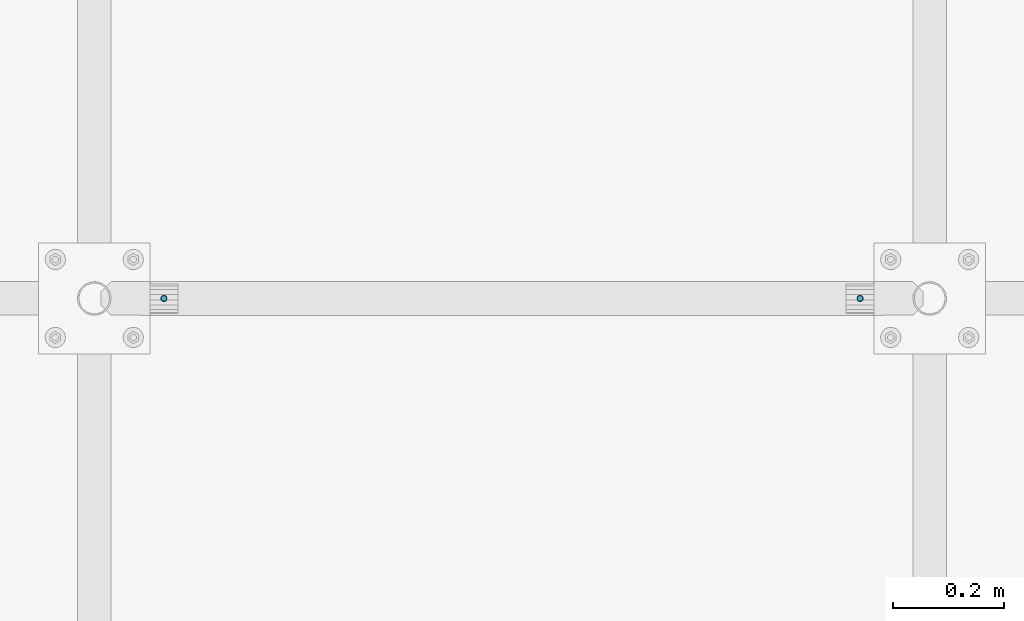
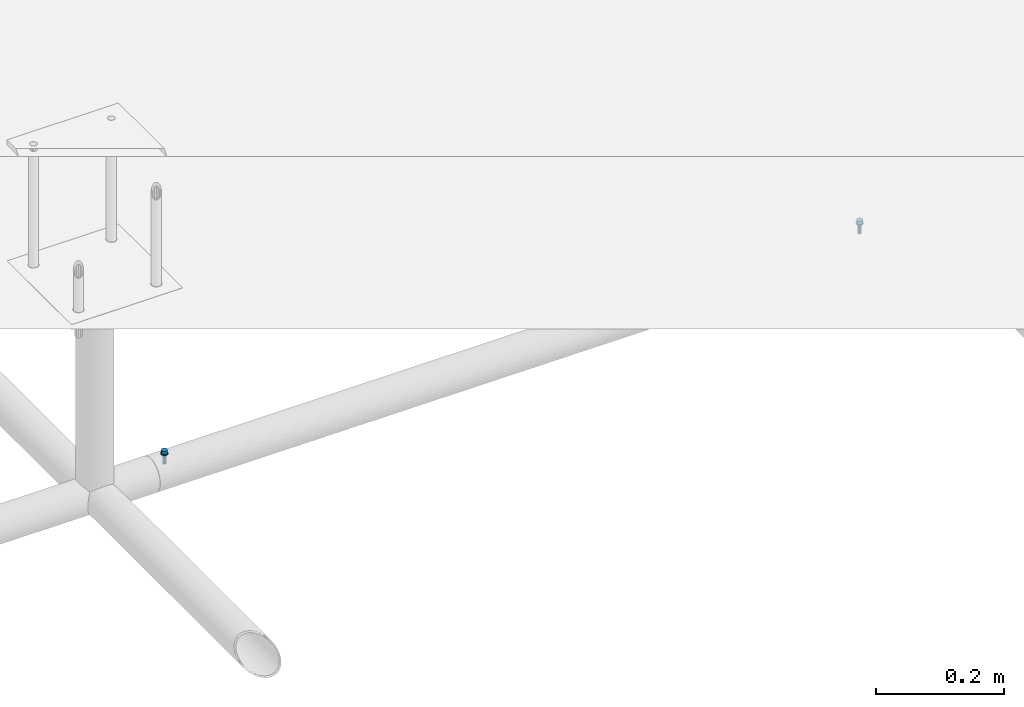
# One storey, part 11 of 30: 2 mechanical fasteners.
"""IFC2X3 building model written with IfcOpenShell, lengths in millimetres."""

from ifc_helpers import new_model, entity, si_unit, converted_unit, origin_with_axes, place, context, project, spatial, faceted_brep, element, save


model = new_model("IFC2X3")

# Units and contexts
model_context = context("Model", 3, precision=1e-09, world=origin_with_axes())
ifc_project = project(units=[si_unit("LENGTHUNIT", "METRE", prefix="MILLI"), si_unit("AREAUNIT", "SQUARE_METRE"), si_unit("VOLUMEUNIT", "CUBIC_METRE"), converted_unit("PLANEANGLEUNIT", "DEGREE", entity("IfcPlaneAngleMeasure", 0.01745329), si_unit("PLANEANGLEUNIT", "RADIAN"), dimensions=[0, 0, 0, 0, 0, 0, 0])], contexts=[model_context])

# Site, building, storey
site_placement = place(None, origin_with_axes())
site = spatial("IfcSite", under=ifc_project, at=site_placement, Name="M?nsinger Stra?e, 81477 M?nchen", CompositionType="ELEMENT")
building_placement = place(site_placement, origin_with_axes())
building = spatial("IfcBuilding", under=site, at=building_placement, Name="Struktur 1", CompositionType="ELEMENT")
storey_placement = place(building_placement, origin_with_axes())
storey = spatial("IfcBuildingStorey", under=building, at=storey_placement, Name="Default Storey", CompositionType="ELEMENT", Elevation=0.0)

# Mechanical fasteners
mechanical_fastener_1_placement = place(None, origin_with_axes())
element("IfcMechanicalFastener", 1, at=mechanical_fastener_1_placement, inside=storey, ObjectType="-", NominalDiameter=6.0, NominalLength=20.0, context=model_context, shape_type="Brep", body=[
    faceted_brep([(6025.315117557, 2991.2632594, 6141.75), (6025.315117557, 2991.2632594, 6140.15), (6025.430405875, 2990.092717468, 6140.15), (6025.430405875, 2990.092717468, 6141.75), (6025.771840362, 2988.967158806, 6140.15), (6025.771840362, 2988.967158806, 6141.75), (6026.326299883, 2987.929838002, 6140.15), (6026.326299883, 2987.929838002, 6141.75), (6027.07247687, 2987.020618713, 6140.15), (6027.07247687, 2987.020618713, 6141.75), (6027.981696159, 2986.274441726, 6140.15), (6027.981696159, 2986.274441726, 6141.75), (6029.019016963, 2985.719982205, 6140.15), (6029.019016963, 2985.719982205, 6141.75), (6030.144575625, 2985.378547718, 6140.15), (6030.144575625, 2985.378547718, 6141.75), (6031.315117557, 2985.2632594, 6140.15), (6031.315117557, 2985.2632594, 6141.75), (6032.485659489, 2985.378547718, 6140.15), (6032.485659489, 2985.378547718, 6141.75), (6033.611218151, 2985.719982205, 6140.15), (6033.611218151, 2985.719982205, 6141.75), (6034.648538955, 2986.274441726, 6140.15), (6034.648538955, 2986.274441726, 6141.75), (6035.557758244, 2987.020618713, 6140.15), (6035.557758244, 2987.020618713, 6141.75), (6036.303935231, 2987.929838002, 6140.15), (6036.303935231, 2987.929838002, 6141.75), (6036.858394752, 2988.967158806, 6140.15), (6036.858394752, 2988.967158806, 6141.75), (6037.199829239, 2990.092717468, 6140.15), (6037.199829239, 2990.092717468, 6141.75), (6037.315117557, 2991.2632594, 6140.15), (6037.315117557, 2991.2632594, 6141.75), (6037.199829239, 2992.433801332, 6140.15), (6037.199829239, 2992.433801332, 6141.75), (6036.858394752, 2993.559359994, 6140.15), (6036.858394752, 2993.559359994, 6141.75), (6036.303935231, 2994.596680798, 6140.15), (6036.303935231, 2994.596680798, 6141.75), (6035.557758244, 2995.505900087, 6140.15), (6035.557758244, 2995.505900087, 6141.75), (6034.648538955, 2996.252077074, 6140.15), (6034.648538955, 2996.252077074, 6141.75), (6033.611218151, 2996.806536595, 6140.15), (6033.611218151, 2996.806536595, 6141.75), (6032.485659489, 2997.147971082, 6140.15), (6032.485659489, 2997.147971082, 6141.75), (6031.315117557, 2997.2632594, 6140.15), (6031.315117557, 2997.2632594, 6141.75), (6030.144575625, 2997.147971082, 6140.15), (6030.144575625, 2997.147971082, 6141.75), (6029.019016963, 2996.806536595, 6140.15), (6029.019016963, 2996.806536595, 6141.75), (6027.981696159, 2996.252077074, 6140.15), (6027.981696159, 2996.252077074, 6141.75), (6027.07247687, 2995.505900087, 6140.15), (6027.07247687, 2995.505900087, 6141.75), (6026.326299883, 2994.596680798, 6140.15), (6026.326299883, 2994.596680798, 6141.75), (6025.771840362, 2993.559359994, 6140.15), (6025.771840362, 2993.559359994, 6141.75), (6025.430405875, 2992.433801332, 6140.15), (6025.430405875, 2992.433801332, 6141.75)], [[[0, 1, 2, 3]], [[3, 2, 4, 5]], [[5, 4, 6, 7]], [[7, 6, 8, 9]], [[9, 8, 10, 11]], [[11, 10, 12, 13]], [[13, 12, 14, 15]], [[15, 14, 16, 17]], [[17, 16, 18, 19]], [[19, 18, 20, 21]], [[21, 20, 22, 23]], [[23, 22, 24, 25]], [[25, 24, 26, 27]], [[27, 26, 28, 29]], [[29, 28, 30, 31]], [[31, 30, 32, 33]], [[33, 32, 34, 35]], [[35, 34, 36, 37]], [[37, 36, 38, 39]], [[39, 38, 40, 41]], [[41, 40, 42, 43]], [[43, 42, 44, 45]], [[45, 44, 46, 47]], [[47, 46, 48, 49]], [[49, 48, 50, 51]], [[51, 50, 52, 53]], [[53, 52, 54, 55]], [[55, 54, 56, 57]], [[57, 56, 58, 59]], [[59, 58, 60, 61]], [[61, 60, 62, 63]], [[63, 62, 1, 0]], [[0, 3, 5, 7, 9, 11, 13, 15, 17, 19, 21, 23, 25, 27, 29, 31, 33, 35, 37, 39, 41, 43, 45, 47, 49, 51, 53, 55, 57, 59, 61, 63]], [[1, 62, 60, 58, 56, 54, 52, 50, 48, 46, 44, 42, 40, 38, 36, 34, 32, 30, 28, 26, 24, 22, 20, 18, 16, 14, 12, 10, 8, 6, 4, 2]]]),
    faceted_brep([(6026.315117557, 2991.2632594, 6147.75), (6026.315117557, 2991.2632594, 6141.75), (6026.411191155, 2990.28780779, 6141.75), (6026.411191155, 2990.28780779, 6147.75), (6026.695719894, 2989.349842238, 6141.75), (6026.695719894, 2989.349842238, 6147.75), (6027.157769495, 2988.485408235, 6141.75), (6027.157769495, 2988.485408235, 6147.75), (6027.779583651, 2987.727725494, 6141.75), (6027.779583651, 2987.727725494, 6147.75), (6028.537266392, 2987.105911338, 6141.75), (6028.537266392, 2987.105911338, 6147.75), (6029.401700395, 2986.643861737, 6141.75), (6029.401700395, 2986.643861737, 6147.75), (6030.339665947, 2986.359332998, 6141.75), (6030.339665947, 2986.359332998, 6147.75), (6031.315117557, 2986.2632594, 6141.75), (6031.315117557, 2986.2632594, 6147.75), (6032.290569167, 2986.359332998, 6141.75), (6032.290569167, 2986.359332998, 6147.75), (6033.228534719, 2986.643861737, 6141.75), (6033.228534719, 2986.643861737, 6147.75), (6034.092968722, 2987.105911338, 6141.75), (6034.092968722, 2987.105911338, 6147.75), (6034.850651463, 2987.727725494, 6141.75), (6034.850651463, 2987.727725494, 6147.75), (6035.472465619, 2988.485408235, 6141.75), (6035.472465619, 2988.485408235, 6147.75), (6035.93451522, 2989.349842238, 6141.75), (6035.93451522, 2989.349842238, 6147.75), (6036.219043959, 2990.28780779, 6141.75), (6036.219043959, 2990.28780779, 6147.75), (6036.315117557, 2991.2632594, 6141.75), (6036.315117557, 2991.2632594, 6147.75), (6036.219043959, 2992.23871101, 6141.75), (6036.219043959, 2992.23871101, 6147.75), (6035.93451522, 2993.176676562, 6141.75), (6035.93451522, 2993.176676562, 6147.75), (6035.472465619, 2994.041110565, 6141.75), (6035.472465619, 2994.041110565, 6147.75), (6034.850651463, 2994.798793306, 6141.75), (6034.850651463, 2994.798793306, 6147.75), (6034.092968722, 2995.420607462, 6141.75), (6034.092968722, 2995.420607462, 6147.75), (6033.228534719, 2995.882657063, 6141.75), (6033.228534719, 2995.882657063, 6147.75), (6032.290569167, 2996.167185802, 6141.75), (6032.290569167, 2996.167185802, 6147.75), (6031.315117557, 2996.2632594, 6141.75), (6031.315117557, 2996.2632594, 6147.75), (6030.339665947, 2996.167185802, 6141.75), (6030.339665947, 2996.167185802, 6147.75), (6029.401700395, 2995.882657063, 6141.75), (6029.401700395, 2995.882657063, 6147.75), (6028.537266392, 2995.420607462, 6141.75), (6028.537266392, 2995.420607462, 6147.75), (6027.779583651, 2994.798793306, 6141.75), (6027.779583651, 2994.798793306, 6147.75), (6027.157769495, 2994.041110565, 6141.75), (6027.157769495, 2994.041110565, 6147.75), (6026.695719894, 2993.176676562, 6141.75), (6026.695719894, 2993.176676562, 6147.75), (6026.411191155, 2992.23871101, 6141.75), (6026.411191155, 2992.23871101, 6147.75)], [[[0, 1, 2, 3]], [[3, 2, 4, 5]], [[5, 4, 6, 7]], [[7, 6, 8, 9]], [[9, 8, 10, 11]], [[11, 10, 12, 13]], [[13, 12, 14, 15]], [[15, 14, 16, 17]], [[17, 16, 18, 19]], [[19, 18, 20, 21]], [[21, 20, 22, 23]], [[23, 22, 24, 25]], [[25, 24, 26, 27]], [[27, 26, 28, 29]], [[29, 28, 30, 31]], [[31, 30, 32, 33]], [[33, 32, 34, 35]], [[35, 34, 36, 37]], [[37, 36, 38, 39]], [[39, 38, 40, 41]], [[41, 40, 42, 43]], [[43, 42, 44, 45]], [[45, 44, 46, 47]], [[47, 46, 48, 49]], [[49, 48, 50, 51]], [[51, 50, 52, 53]], [[53, 52, 54, 55]], [[55, 54, 56, 57]], [[57, 56, 58, 59]], [[59, 58, 60, 61]], [[61, 60, 62, 63]], [[63, 62, 1, 0]], [[0, 3, 5, 7, 9, 11, 13, 15, 17, 19, 21, 23, 25, 27, 29, 31, 33, 35, 37, 39, 41, 43, 45, 47, 49, 51, 53, 55, 57, 59, 61, 63]], [[1, 62, 60, 58, 56, 54, 52, 50, 48, 46, 44, 42, 40, 38, 36, 34, 32, 30, 28, 26, 24, 22, 20, 18, 16, 14, 12, 10, 8, 6, 4, 2]]]),
    faceted_brep([(6028.315117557, 2991.2632594, 6140.15), (6028.315117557, 2991.2632594, 6130.585197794), (6028.543478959, 2990.115209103, 6130.585197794), (6028.543478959, 2990.115209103, 6140.15), (6029.193797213, 2989.141939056, 6130.585197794), (6029.193797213, 2989.141939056, 6140.15), (6030.16706726, 2988.491620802, 6130.585197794), (6030.16706726, 2988.491620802, 6140.15), (6031.315117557, 2988.2632594, 6130.585197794), (6031.315117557, 2988.2632594, 6140.15), (6032.463167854, 2988.491620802, 6130.585197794), (6032.463167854, 2988.491620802, 6140.15), (6033.436437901, 2989.141939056, 6130.585197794), (6033.436437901, 2989.141939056, 6140.15), (6034.086756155, 2990.115209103, 6130.585197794), (6034.086756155, 2990.115209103, 6140.15), (6034.315117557, 2991.2632594, 6130.585197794), (6034.315117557, 2991.2632594, 6140.15), (6034.086756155, 2992.411309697, 6130.585197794), (6034.086756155, 2992.411309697, 6140.15), (6033.436437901, 2993.384579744, 6130.585197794), (6033.436437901, 2993.384579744, 6140.15), (6032.463167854, 2994.034897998, 6130.585197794), (6032.463167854, 2994.034897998, 6140.15), (6031.315117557, 2994.2632594, 6130.585197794), (6031.315117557, 2994.2632594, 6140.15), (6030.16706726, 2994.034897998, 6130.585197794), (6030.16706726, 2994.034897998, 6140.15), (6029.193797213, 2993.384579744, 6130.585197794), (6029.193797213, 2993.384579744, 6140.15), (6028.543478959, 2992.411309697, 6130.585197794), (6028.543478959, 2992.411309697, 6140.15)], [[[0, 1, 2, 3]], [[3, 2, 4, 5]], [[5, 4, 6, 7]], [[7, 6, 8, 9]], [[9, 8, 10, 11]], [[11, 10, 12, 13]], [[13, 12, 14, 15]], [[15, 14, 16, 17]], [[17, 16, 18, 19]], [[19, 18, 20, 21]], [[21, 20, 22, 23]], [[23, 22, 24, 25]], [[25, 24, 26, 27]], [[27, 26, 28, 29]], [[29, 28, 30, 31]], [[31, 30, 1, 0]], [[0, 3, 5, 7, 9, 11, 13, 15, 17, 19, 21, 23, 25, 27, 29, 31]], [[1, 30, 28, 26, 24, 22, 20, 18, 16, 14, 12, 10, 8, 6, 4, 2]]]),
    faceted_brep([(6028.315117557, 2991.2632594, 6130.585197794), (6028.315117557, 2991.2632594, 6121.75), (6028.543478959, 2990.115209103, 6121.75), (6028.543478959, 2990.115209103, 6130.585197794), (6029.193797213, 2989.141939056, 6121.75), (6029.193797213, 2989.141939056, 6130.585197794), (6030.16706726, 2988.491620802, 6121.75), (6030.16706726, 2988.491620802, 6130.585197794), (6031.315117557, 2988.2632594, 6121.75), (6031.315117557, 2988.2632594, 6130.585197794), (6032.463167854, 2988.491620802, 6121.75), (6032.463167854, 2988.491620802, 6130.585197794), (6033.436437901, 2989.141939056, 6121.75), (6033.436437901, 2989.141939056, 6130.585197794), (6034.086756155, 2990.115209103, 6121.75), (6034.086756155, 2990.115209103, 6130.585197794), (6034.315117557, 2991.2632594, 6121.75), (6034.315117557, 2991.2632594, 6130.585197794), (6034.086756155, 2992.411309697, 6121.75), (6034.086756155, 2992.411309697, 6130.585197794), (6033.436437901, 2993.384579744, 6121.75), (6033.436437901, 2993.384579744, 6130.585197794), (6032.463167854, 2994.034897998, 6121.75), (6032.463167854, 2994.034897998, 6130.585197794), (6031.315117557, 2994.2632594, 6121.75), (6031.315117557, 2994.2632594, 6130.585197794), (6030.16706726, 2994.034897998, 6121.75), (6030.16706726, 2994.034897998, 6130.585197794), (6029.193797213, 2993.384579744, 6121.75), (6029.193797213, 2993.384579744, 6130.585197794), (6028.543478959, 2992.411309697, 6121.75), (6028.543478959, 2992.411309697, 6130.585197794)], [[[0, 1, 2, 3]], [[3, 2, 4, 5]], [[5, 4, 6, 7]], [[7, 6, 8, 9]], [[9, 8, 10, 11]], [[11, 10, 12, 13]], [[13, 12, 14, 15]], [[15, 14, 16, 17]], [[17, 16, 18, 19]], [[19, 18, 20, 21]], [[21, 20, 22, 23]], [[23, 22, 24, 25]], [[25, 24, 26, 27]], [[27, 26, 28, 29]], [[29, 28, 30, 31]], [[31, 30, 1, 0]], [[0, 3, 5, 7, 9, 11, 13, 15, 17, 19, 21, 23, 25, 27, 29, 31]], [[1, 30, 28, 26, 24, 22, 20, 18, 16, 14, 12, 10, 8, 6, 4, 2]]]),
])
mechanical_fastener_2_placement = place(None, origin_with_axes())
element("IfcMechanicalFastener", 2, at=mechanical_fastener_2_placement, inside=storey, ObjectType="-", NominalDiameter=6.0, NominalLength=20.0, context=model_context, shape_type="Brep", body=[
    faceted_brep([(7287.315117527, 2991.2632594, 6140.15), (7287.315117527, 2991.2632594, 6141.75), (7287.19982921, 2990.092717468, 6141.75), (7287.19982921, 2990.092717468, 6140.15), (7286.858394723, 2988.967158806, 6141.75), (7286.858394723, 2988.967158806, 6140.15), (7286.303935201, 2987.929838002, 6141.75), (7286.303935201, 2987.929838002, 6140.15), (7285.557758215, 2987.020618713, 6141.75), (7285.557758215, 2987.020618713, 6140.15), (7284.648538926, 2986.274441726, 6141.75), (7284.648538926, 2986.274441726, 6140.15), (7283.611218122, 2985.719982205, 6141.75), (7283.611218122, 2985.719982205, 6140.15), (7282.48565946, 2985.378547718, 6141.75), (7282.48565946, 2985.378547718, 6140.15), (7281.315117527, 2985.2632594, 6141.75), (7281.315117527, 2985.2632594, 6140.15), (7280.144575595, 2985.378547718, 6141.75), (7280.144575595, 2985.378547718, 6140.15), (7279.019016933, 2985.719982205, 6141.75), (7279.019016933, 2985.719982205, 6140.15), (7277.981696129, 2986.274441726, 6141.75), (7277.981696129, 2986.274441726, 6140.15), (7277.07247684, 2987.020618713, 6141.75), (7277.07247684, 2987.020618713, 6140.15), (7276.326299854, 2987.929838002, 6141.75), (7276.326299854, 2987.929838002, 6140.15), (7275.771840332, 2988.967158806, 6141.75), (7275.771840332, 2988.967158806, 6140.15), (7275.430405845, 2990.092717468, 6141.75), (7275.430405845, 2990.092717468, 6140.15), (7275.315117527, 2991.2632594, 6141.75), (7275.315117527, 2991.2632594, 6140.15), (7275.430405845, 2992.433801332, 6141.75), (7275.430405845, 2992.433801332, 6140.15), (7275.771840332, 2993.559359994, 6141.75), (7275.771840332, 2993.559359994, 6140.15), (7276.326299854, 2994.596680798, 6141.75), (7276.326299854, 2994.596680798, 6140.15), (7277.07247684, 2995.505900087, 6141.75), (7277.07247684, 2995.505900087, 6140.15), (7277.981696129, 2996.252077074, 6141.75), (7277.981696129, 2996.252077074, 6140.15), (7279.019016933, 2996.806536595, 6141.75), (7279.019016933, 2996.806536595, 6140.15), (7280.144575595, 2997.147971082, 6141.75), (7280.144575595, 2997.147971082, 6140.15), (7281.315117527, 2997.2632594, 6141.75), (7281.315117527, 2997.2632594, 6140.15), (7282.48565946, 2997.147971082, 6141.75), (7282.48565946, 2997.147971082, 6140.15), (7283.611218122, 2996.806536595, 6141.75), (7283.611218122, 2996.806536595, 6140.15), (7284.648538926, 2996.252077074, 6141.75), (7284.648538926, 2996.252077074, 6140.15), (7285.557758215, 2995.505900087, 6141.75), (7285.557758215, 2995.505900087, 6140.15), (7286.303935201, 2994.596680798, 6141.75), (7286.303935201, 2994.596680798, 6140.15), (7286.858394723, 2993.559359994, 6141.75), (7286.858394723, 2993.559359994, 6140.15), (7287.19982921, 2992.433801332, 6141.75), (7287.19982921, 2992.433801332, 6140.15)], [[[0, 1, 2, 3]], [[3, 2, 4, 5]], [[5, 4, 6, 7]], [[7, 6, 8, 9]], [[9, 8, 10, 11]], [[11, 10, 12, 13]], [[13, 12, 14, 15]], [[15, 14, 16, 17]], [[17, 16, 18, 19]], [[19, 18, 20, 21]], [[21, 20, 22, 23]], [[23, 22, 24, 25]], [[25, 24, 26, 27]], [[27, 26, 28, 29]], [[29, 28, 30, 31]], [[31, 30, 32, 33]], [[33, 32, 34, 35]], [[35, 34, 36, 37]], [[37, 36, 38, 39]], [[39, 38, 40, 41]], [[41, 40, 42, 43]], [[43, 42, 44, 45]], [[45, 44, 46, 47]], [[47, 46, 48, 49]], [[49, 48, 50, 51]], [[51, 50, 52, 53]], [[53, 52, 54, 55]], [[55, 54, 56, 57]], [[57, 56, 58, 59]], [[59, 58, 60, 61]], [[61, 60, 62, 63]], [[63, 62, 1, 0]], [[2, 1, 62, 60, 58, 56, 54, 52, 50, 48, 46, 44, 42, 40, 38, 36, 34, 32, 30, 28, 26, 24, 22, 20, 18, 16, 14, 12, 10, 8, 6, 4]], [[63, 0, 3, 5, 7, 9, 11, 13, 15, 17, 19, 21, 23, 25, 27, 29, 31, 33, 35, 37, 39, 41, 43, 45, 47, 49, 51, 53, 55, 57, 59, 61]]]),
    faceted_brep([(7286.315117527, 2991.2632594, 6141.75), (7286.315117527, 2991.2632594, 6147.75), (7286.219043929, 2990.28780779, 6147.75), (7286.219043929, 2990.28780779, 6141.75), (7285.93451519, 2989.349842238, 6147.75), (7285.93451519, 2989.349842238, 6141.75), (7285.472465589, 2988.485408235, 6147.75), (7285.472465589, 2988.485408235, 6141.75), (7284.850651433, 2987.727725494, 6147.75), (7284.850651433, 2987.727725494, 6141.75), (7284.092968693, 2987.105911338, 6147.75), (7284.092968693, 2987.105911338, 6141.75), (7283.228534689, 2986.643861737, 6147.75), (7283.228534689, 2986.643861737, 6141.75), (7282.290569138, 2986.359332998, 6147.75), (7282.290569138, 2986.359332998, 6141.75), (7281.315117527, 2986.2632594, 6147.75), (7281.315117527, 2986.2632594, 6141.75), (7280.339665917, 2986.359332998, 6147.75), (7280.339665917, 2986.359332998, 6141.75), (7279.401700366, 2986.643861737, 6147.75), (7279.401700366, 2986.643861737, 6141.75), (7278.537266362, 2987.105911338, 6147.75), (7278.537266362, 2987.105911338, 6141.75), (7277.779583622, 2987.727725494, 6147.75), (7277.779583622, 2987.727725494, 6141.75), (7277.157769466, 2988.485408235, 6147.75), (7277.157769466, 2988.485408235, 6141.75), (7276.695719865, 2989.349842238, 6147.75), (7276.695719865, 2989.349842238, 6141.75), (7276.411191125, 2990.28780779, 6147.75), (7276.411191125, 2990.28780779, 6141.75), (7276.315117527, 2991.2632594, 6147.75), (7276.315117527, 2991.2632594, 6141.75), (7276.411191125, 2992.23871101, 6147.75), (7276.411191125, 2992.23871101, 6141.75), (7276.695719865, 2993.176676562, 6147.75), (7276.695719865, 2993.176676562, 6141.75), (7277.157769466, 2994.041110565, 6147.75), (7277.157769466, 2994.041110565, 6141.75), (7277.779583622, 2994.798793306, 6147.75), (7277.779583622, 2994.798793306, 6141.75), (7278.537266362, 2995.420607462, 6147.75), (7278.537266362, 2995.420607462, 6141.75), (7279.401700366, 2995.882657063, 6147.75), (7279.401700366, 2995.882657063, 6141.75), (7280.339665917, 2996.167185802, 6147.75), (7280.339665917, 2996.167185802, 6141.75), (7281.315117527, 2996.2632594, 6147.75), (7281.315117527, 2996.2632594, 6141.75), (7282.290569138, 2996.167185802, 6147.75), (7282.290569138, 2996.167185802, 6141.75), (7283.228534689, 2995.882657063, 6147.75), (7283.228534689, 2995.882657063, 6141.75), (7284.092968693, 2995.420607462, 6147.75), (7284.092968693, 2995.420607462, 6141.75), (7284.850651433, 2994.798793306, 6147.75), (7284.850651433, 2994.798793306, 6141.75), (7285.472465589, 2994.041110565, 6147.75), (7285.472465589, 2994.041110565, 6141.75), (7285.93451519, 2993.176676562, 6147.75), (7285.93451519, 2993.176676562, 6141.75), (7286.219043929, 2992.23871101, 6147.75), (7286.219043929, 2992.23871101, 6141.75)], [[[0, 1, 2, 3]], [[3, 2, 4, 5]], [[5, 4, 6, 7]], [[7, 6, 8, 9]], [[9, 8, 10, 11]], [[11, 10, 12, 13]], [[13, 12, 14, 15]], [[15, 14, 16, 17]], [[17, 16, 18, 19]], [[19, 18, 20, 21]], [[21, 20, 22, 23]], [[23, 22, 24, 25]], [[25, 24, 26, 27]], [[27, 26, 28, 29]], [[29, 28, 30, 31]], [[31, 30, 32, 33]], [[33, 32, 34, 35]], [[35, 34, 36, 37]], [[37, 36, 38, 39]], [[39, 38, 40, 41]], [[41, 40, 42, 43]], [[43, 42, 44, 45]], [[45, 44, 46, 47]], [[47, 46, 48, 49]], [[49, 48, 50, 51]], [[51, 50, 52, 53]], [[53, 52, 54, 55]], [[55, 54, 56, 57]], [[57, 56, 58, 59]], [[59, 58, 60, 61]], [[61, 60, 62, 63]], [[63, 62, 1, 0]], [[2, 1, 62, 60, 58, 56, 54, 52, 50, 48, 46, 44, 42, 40, 38, 36, 34, 32, 30, 28, 26, 24, 22, 20, 18, 16, 14, 12, 10, 8, 6, 4]], [[63, 0, 3, 5, 7, 9, 11, 13, 15, 17, 19, 21, 23, 25, 27, 29, 31, 33, 35, 37, 39, 41, 43, 45, 47, 49, 51, 53, 55, 57, 59, 61]]]),
    faceted_brep([(7284.315117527, 2991.2632594, 6130.585197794), (7284.315117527, 2991.2632594, 6140.15), (7284.086756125, 2990.115209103, 6140.15), (7284.086756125, 2990.115209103, 6130.585197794), (7283.436437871, 2989.141939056, 6140.15), (7283.436437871, 2989.141939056, 6130.585197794), (7282.463167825, 2988.491620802, 6140.15), (7282.463167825, 2988.491620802, 6130.585197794), (7281.315117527, 2988.2632594, 6140.15), (7281.315117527, 2988.2632594, 6130.585197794), (7280.16706723, 2988.491620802, 6140.15), (7280.16706723, 2988.491620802, 6130.585197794), (7279.193797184, 2989.141939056, 6140.15), (7279.193797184, 2989.141939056, 6130.585197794), (7278.54347893, 2990.115209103, 6140.15), (7278.54347893, 2990.115209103, 6130.585197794), (7278.315117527, 2991.2632594, 6140.15), (7278.315117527, 2991.2632594, 6130.585197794), (7278.54347893, 2992.411309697, 6140.15), (7278.54347893, 2992.411309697, 6130.585197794), (7279.193797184, 2993.384579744, 6140.15), (7279.193797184, 2993.384579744, 6130.585197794), (7280.16706723, 2994.034897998, 6140.15), (7280.16706723, 2994.034897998, 6130.585197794), (7281.315117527, 2994.2632594, 6140.15), (7281.315117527, 2994.2632594, 6130.585197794), (7282.463167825, 2994.034897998, 6140.15), (7282.463167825, 2994.034897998, 6130.585197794), (7283.436437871, 2993.384579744, 6140.15), (7283.436437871, 2993.384579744, 6130.585197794), (7284.086756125, 2992.411309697, 6140.15), (7284.086756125, 2992.411309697, 6130.585197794)], [[[0, 1, 2, 3]], [[3, 2, 4, 5]], [[5, 4, 6, 7]], [[7, 6, 8, 9]], [[9, 8, 10, 11]], [[11, 10, 12, 13]], [[13, 12, 14, 15]], [[15, 14, 16, 17]], [[17, 16, 18, 19]], [[19, 18, 20, 21]], [[21, 20, 22, 23]], [[23, 22, 24, 25]], [[25, 24, 26, 27]], [[27, 26, 28, 29]], [[29, 28, 30, 31]], [[31, 30, 1, 0]], [[2, 1, 30, 28, 26, 24, 22, 20, 18, 16, 14, 12, 10, 8, 6, 4]], [[31, 0, 3, 5, 7, 9, 11, 13, 15, 17, 19, 21, 23, 25, 27, 29]]]),
    faceted_brep([(7284.315117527, 2991.2632594, 6121.75), (7284.315117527, 2991.2632594, 6130.585197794), (7284.086756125, 2990.115209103, 6130.585197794), (7284.086756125, 2990.115209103, 6121.75), (7283.436437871, 2989.141939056, 6130.585197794), (7283.436437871, 2989.141939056, 6121.75), (7282.463167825, 2988.491620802, 6130.585197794), (7282.463167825, 2988.491620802, 6121.75), (7281.315117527, 2988.2632594, 6130.585197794), (7281.315117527, 2988.2632594, 6121.75), (7280.16706723, 2988.491620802, 6130.585197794), (7280.16706723, 2988.491620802, 6121.75), (7279.193797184, 2989.141939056, 6130.585197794), (7279.193797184, 2989.141939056, 6121.75), (7278.54347893, 2990.115209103, 6130.585197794), (7278.54347893, 2990.115209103, 6121.75), (7278.315117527, 2991.2632594, 6130.585197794), (7278.315117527, 2991.2632594, 6121.75), (7278.54347893, 2992.411309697, 6130.585197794), (7278.54347893, 2992.411309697, 6121.75), (7279.193797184, 2993.384579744, 6130.585197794), (7279.193797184, 2993.384579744, 6121.75), (7280.16706723, 2994.034897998, 6130.585197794), (7280.16706723, 2994.034897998, 6121.75), (7281.315117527, 2994.2632594, 6130.585197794), (7281.315117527, 2994.2632594, 6121.75), (7282.463167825, 2994.034897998, 6130.585197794), (7282.463167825, 2994.034897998, 6121.75), (7283.436437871, 2993.384579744, 6130.585197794), (7283.436437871, 2993.384579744, 6121.75), (7284.086756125, 2992.411309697, 6130.585197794), (7284.086756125, 2992.411309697, 6121.75)], [[[0, 1, 2, 3]], [[3, 2, 4, 5]], [[5, 4, 6, 7]], [[7, 6, 8, 9]], [[9, 8, 10, 11]], [[11, 10, 12, 13]], [[13, 12, 14, 15]], [[15, 14, 16, 17]], [[17, 16, 18, 19]], [[19, 18, 20, 21]], [[21, 20, 22, 23]], [[23, 22, 24, 25]], [[25, 24, 26, 27]], [[27, 26, 28, 29]], [[29, 28, 30, 31]], [[31, 30, 1, 0]], [[2, 1, 30, 28, 26, 24, 22, 20, 18, 16, 14, 12, 10, 8, 6, 4]], [[31, 0, 3, 5, 7, 9, 11, 13, 15, 17, 19, 21, 23, 25, 27, 29]]]),
])

save(model, "model.ifc")
